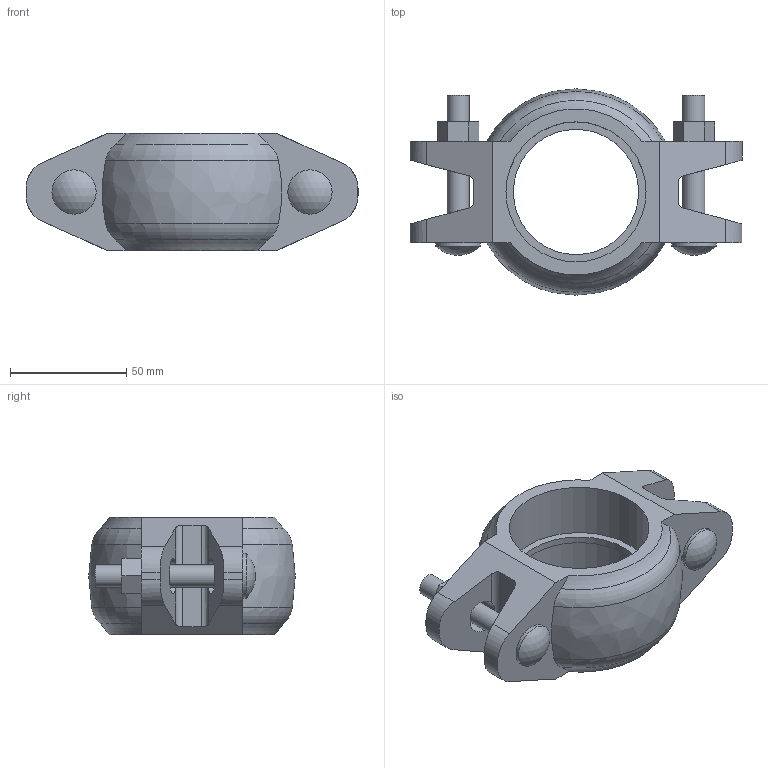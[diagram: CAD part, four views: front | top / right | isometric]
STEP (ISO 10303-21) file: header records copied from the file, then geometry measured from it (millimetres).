
FILE_DESCRIPTION(/* description */ ('VICTAULIC STYLE 009N FIRELOCK EZ RIGID COUPLING','CAx-IF Rec.Pracs.---Representation and Presentation of Product Manufacturing Information (PMI)---4.0---2014-10-13'),/* implementation_level */ '2;1');
FILE_NAME(/* name */ 'C:\Users\Vjadhav\AppData\Roaming\Autodesk\ApplicationPlugins\Victaulic.Temp\A361\Victaulic_FP-FireLock_Coupling Rigid_IR_Style 009N (OGS)_2 (50).stp',/* time_stamp */ '2022-03-23T18:54:30+05:00',/* author */ ('Vjadhav'),/* organization */ ('Victaulic'),/* preprocessor_version */ 'ST-DEVELOPER v17.2',/* originating_system */ 'Autodesk Inventor 2019',/* authorisation */ '');
FILE_SCHEMA (('AP242_MANAGED_MODEL_BASED_3D_ENGINEERING_MIM_LF { 1 0 10303 442 1 1 4 }'));
Length unit declared in the file: inch
Products named in the file (2): 009N-02.0; 009N-02.0_1
Assembly tree (1 placements, depth 2):
  009N-02.0
    009N-02.0_1
Bounding box: 143 x 88.9 x 50.8 mm (x, y, z)
Volume: 202996.8 mm3; surface area: 43831.2 mm2
Topology: 1 solids, 1 shells, 91 faces, 263 edges, 178 vertices
Faces by surface type: plane 50, cylinder 29, torus 8, sphere 2, bspline 2
Full cylindrical faces by diameter (mm): 9.525 x4, 19.05 x2, 53.975 x1, 60.325 x2
Entity records: 3407 total; most frequent: CARTESIAN_POINT 783, ORIENTED_EDGE 526, DIRECTION 505, EDGE_CURVE 263, VERTEX_POINT 178, AXIS2_PLACEMENT_3D 178, LINE 149, VECTOR 149
